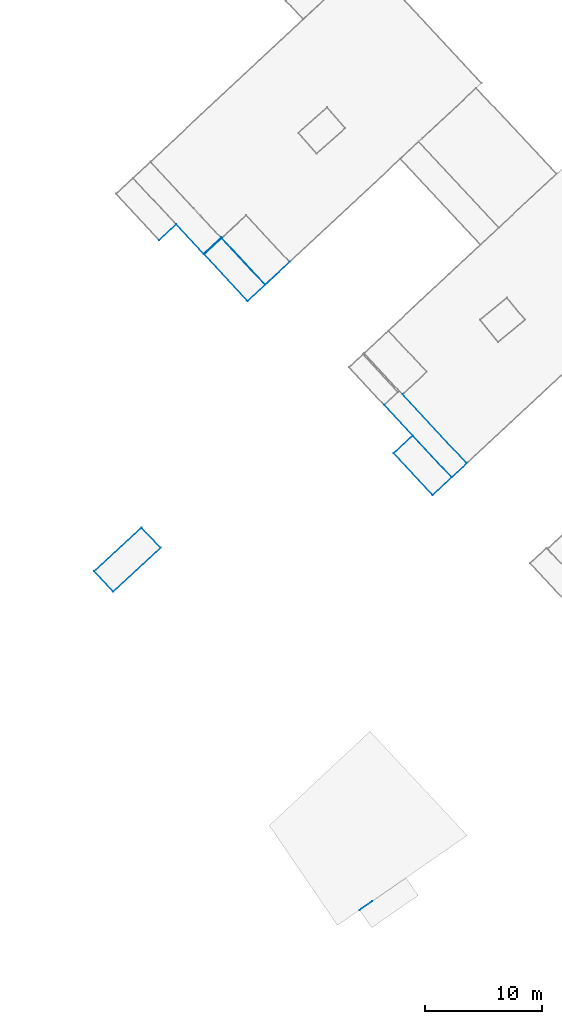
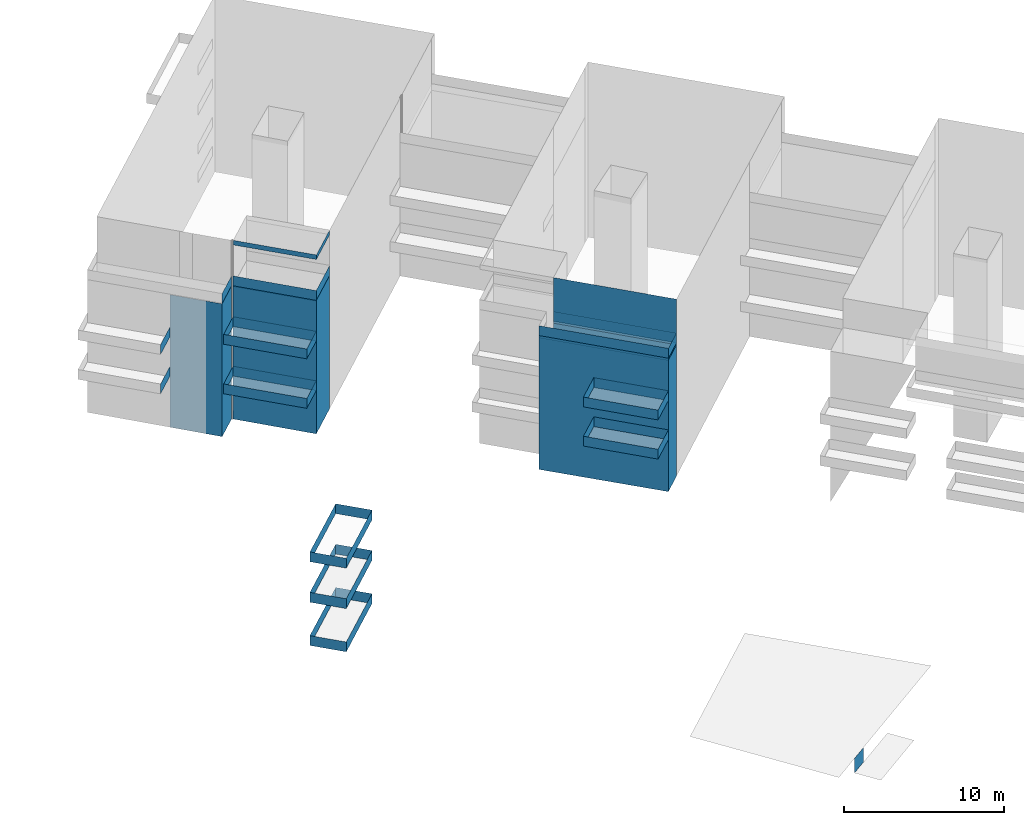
# Not in any storey, part 14 of 136: 89 walls.
"""IFC4 building model written with IfcOpenShell, lengths in metres."""

from ifc_helpers import new_model, entity, si_unit, converted_unit, frame, origin, place, context, subcontext, project, spatial, face_set, surface_model, element, save


model = new_model("IFC4")

# Units and contexts
model_context = context("Model", 3, precision=1e-05, world=origin())
body_context = subcontext(model_context, "Body", "Model", "MODEL_VIEW")
ifc_project = project(units=[converted_unit("PLANEANGLEUNIT", "DEGREE", entity("IfcRatioMeasure", 0.0174532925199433), si_unit("PLANEANGLEUNIT", "RADIAN"), dimensions=[0, 0, 0, 0, 0, 0, 0]), si_unit("AREAUNIT", "SQUARE_METRE"), si_unit("LENGTHUNIT", "METRE")], contexts=[model_context])

# Site, building
site_placement = place(None, origin())
site = spatial("IfcSite", under=ifc_project, at=site_placement, Name="_site")
building_1_placement = place(site_placement, origin())
building_1 = spatial("IfcBuilding", under=site, at=building_1_placement, Name="_building")

# Walls
wall_1_placement = place(building_1_placement, origin())
element("IfcWall", 1, at=wall_1_placement, inside=building_1, Name="Wall", PredefinedType="NOTDEFINED", context=body_context, shape_type="SurfaceModel", body=[
    surface_model("IfcFaceBasedSurfaceModel", [(108.5, -7.54, 45.01), (107.05, -8.89, 45.01), (107.05, -8.89, 45.76), (108.5, -7.54, 45.76)], [face_set([[[0, 1, 2, 3]]])]),
])
wall_2_placement = place(building_1_placement, origin())
element("IfcWall", 2, at=wall_2_placement, inside=building_1, Name="Wall", PredefinedType="NOTDEFINED", context=body_context, shape_type="SurfaceModel", body=[
    surface_model("IfcFaceBasedSurfaceModel", [(127.08, -27.09, 45.03), (128.7, -25.58, 45.03), (128.7, -25.58, 45.78), (127.08, -27.09, 45.78)], [face_set([[[0, 1, 2, 3]]])]),
])
wall_3_placement = place(building_1_placement, origin())
element("IfcWall", 3, at=wall_3_placement, inside=building_1, Name="Wall", PredefinedType="NOTDEFINED", context=body_context, shape_type="SurfaceModel", body=[
    surface_model("IfcFaceBasedSurfaceModel", [(130.41, -30.66, 45.03), (127.08, -27.09, 45.03), (127.08, -27.09, 45.78), (130.41, -30.66, 45.78)], [face_set([[[0, 1, 2, 3]]])]),
])
wall_4_placement = place(building_1_placement, origin())
element("IfcWall", 4, at=wall_4_placement, inside=building_1, Name="Wall", PredefinedType="NOTDEFINED", context=body_context, shape_type="SurfaceModel", body=[
    surface_model("IfcFaceBasedSurfaceModel", [(108.5, -7.54, 45.01), (107.05, -8.89, 45.01), (107.05, -8.89, 45.76), (108.5, -7.54, 45.76)], [face_set([[[0, 1, 2, 3]]])]),
])
wall_5_placement = place(building_1_placement, origin())
element("IfcWall", 5, at=wall_5_placement, inside=building_1, Name="Wall", PredefinedType="NOTDEFINED", context=body_context, shape_type="SurfaceModel", body=[
    surface_model("IfcFaceBasedSurfaceModel", [(132.03, -29.149, 45.03), (130.41, -30.66, 45.03), (130.41, -30.66, 45.78), (132.03, -29.149, 45.78)], [face_set([[[0, 1, 2, 3]]])]),
])
wall_6_placement = place(building_1_placement, origin())
element("IfcWall", 6, at=wall_6_placement, inside=building_1, Name="Wall", PredefinedType="NOTDEFINED", context=body_context, shape_type="SurfaceModel", body=[
    surface_model("IfcFaceBasedSurfaceModel", [(127.08, -27.09, 45.03), (128.7, -25.58, 45.03), (128.7, -25.58, 45.78), (127.08, -27.09, 45.78)], [face_set([[[0, 1, 2, 3]]])]),
])
wall_7_placement = place(building_1_placement, origin())
element("IfcWall", 7, at=wall_7_placement, inside=building_1, Name="Wall", PredefinedType="NOTDEFINED", context=body_context, shape_type="SurfaceModel", body=[
    surface_model("IfcFaceBasedSurfaceModel", [(130.41, -30.66, 45.03), (127.08, -27.09, 45.03), (127.08, -27.09, 45.78), (130.41, -30.66, 45.78)], [face_set([[[0, 1, 2, 3]]])]),
])
wall_8_placement = place(building_1_placement, origin())
element("IfcWall", 8, at=wall_8_placement, inside=building_1, Name="Wall", PredefinedType="NOTDEFINED", context=body_context, shape_type="SurfaceModel", body=[
    surface_model("IfcFaceBasedSurfaceModel", [(132.03, -29.149, 45.03), (130.41, -30.66, 45.03), (130.41, -30.66, 45.78), (132.03, -29.149, 45.78)], [face_set([[[0, 1, 2, 3]]])]),
])
wall_9_placement = place(building_1_placement, origin())
element("IfcWall", 9, at=wall_9_placement, inside=building_1, Name="Wall", PredefinedType="NOTDEFINED", context=body_context, shape_type="SurfaceModel", body=[
    surface_model("IfcFaceBasedSurfaceModel", [(128.7, -25.58, 45.03), (132.03, -29.149, 45.03), (132.03, -29.149, 45.78), (128.7, -25.58, 45.78)], [face_set([[[0, 1, 2, 3]]])]),
])
for number, where, name in (
    (10, (0.0, 0.0, 0.0), "Wall"),
    (11, (0.0, 0.0, 0.0), "Wall"),
):
    element("IfcWall", number, at=place(building_1_placement, frame(where)), inside=building_1, Name=name, PredefinedType="NOTDEFINED", context=body_context, shape_type="SurfaceModel", body=[
        surface_model("IfcFaceBasedSurfaceModel", [(108.5, -7.54, 42.0), (107.05, -8.89, 42.0), (107.05, -8.89, 42.75), (108.5, -7.54, 42.75)], [face_set([[[0, 1, 2, 3]]])]),
    ])
wall_10_placement = place(building_1_placement, origin())
element("IfcWall", 12, at=wall_10_placement, inside=building_1, Name="Wall", PredefinedType="NOTDEFINED", context=body_context, shape_type="SurfaceModel", body=[
    surface_model("IfcFaceBasedSurfaceModel", [(101.51, -37.17, 45.18), (105.53, -33.43, 45.18), (105.53, -33.43, 45.93), (101.51, -37.17, 45.93)], [face_set([[[0, 1, 2, 3]]])]),
])
wall_11_placement = place(building_1_placement, origin())
element("IfcWall", 13, at=wall_11_placement, inside=building_1, Name="Wall", PredefinedType="NOTDEFINED", context=body_context, shape_type="SurfaceModel", body=[
    surface_model("IfcFaceBasedSurfaceModel", [(103.13, -38.91, 45.18), (101.51, -37.17, 45.18), (101.51, -37.17, 45.93), (103.13, -38.91, 45.93)], [face_set([[[0, 1, 2, 3]]])]),
])
wall_12_placement = place(building_1_placement, origin())
element("IfcWall", 14, at=wall_12_placement, inside=building_1, Name="Wall", PredefinedType="NOTDEFINED", context=body_context, shape_type="SurfaceModel", body=[
    surface_model("IfcFaceBasedSurfaceModel", [(107.15, -35.16, 45.18), (103.13, -38.91, 45.18), (103.13, -38.91, 45.93), (107.15, -35.16, 45.93)], [face_set([[[0, 1, 2, 3]]])]),
])
wall_13_placement = place(building_1_placement, origin())
element("IfcWall", 15, at=wall_13_placement, inside=building_1, Name="Wall", PredefinedType="NOTDEFINED", context=body_context, shape_type="SurfaceModel", body=[
    surface_model("IfcFaceBasedSurfaceModel", [(105.53, -33.43, 45.18), (107.15, -35.16, 45.18), (107.15, -35.16, 45.93), (105.53, -33.43, 45.93)], [face_set([[[0, 1, 2, 3]]])]),
])
wall_14_placement = place(building_1_placement, origin())
element("IfcWall", 16, at=wall_14_placement, inside=building_1, Name="Wall", PredefinedType="NOTDEFINED", context=body_context, shape_type="SurfaceModel", body=[
    surface_model("IfcFaceBasedSurfaceModel", [(101.51, -37.17, 45.18), (105.53, -33.43, 45.18), (105.53, -33.43, 45.93), (101.51, -37.17, 45.93)], [face_set([[[0, 1, 2, 3]]])]),
])
wall_15_placement = place(building_1_placement, origin())
element("IfcWall", 17, at=wall_15_placement, inside=building_1, Name="Wall", PredefinedType="NOTDEFINED", context=body_context, shape_type="SurfaceModel", body=[
    surface_model("IfcFaceBasedSurfaceModel", [(103.13, -38.91, 45.18), (101.51, -37.17, 45.18), (101.51, -37.17, 45.93), (103.13, -38.91, 45.93)], [face_set([[[0, 1, 2, 3]]])]),
])
wall_16_placement = place(building_1_placement, origin())
element("IfcWall", 18, at=wall_16_placement, inside=building_1, Name="Wall", PredefinedType="NOTDEFINED", context=body_context, shape_type="SurfaceModel", body=[
    surface_model("IfcFaceBasedSurfaceModel", [(107.15, -35.16, 45.18), (103.13, -38.91, 45.18), (103.13, -38.91, 45.93), (107.15, -35.16, 45.93)], [face_set([[[0, 1, 2, 3]]])]),
])
wall_17_placement = place(building_1_placement, origin())
element("IfcWall", 19, at=wall_17_placement, inside=building_1, Name="Wall", PredefinedType="NOTDEFINED", context=body_context, shape_type="SurfaceModel", body=[
    surface_model("IfcFaceBasedSurfaceModel", [(105.53, -33.43, 45.18), (107.15, -35.16, 45.18), (107.15, -35.16, 45.93), (105.53, -33.43, 45.93)], [face_set([[[0, 1, 2, 3]]])]),
])
wall_18_placement = place(building_1_placement, origin())
element("IfcWall", 20, at=wall_18_placement, inside=building_1, Name="Wall", PredefinedType="NOTDEFINED", context=body_context, shape_type="SurfaceModel", body=[
    surface_model("IfcFaceBasedSurfaceModel", [(101.51, -37.17, 41.88), (105.53, -33.43, 41.88), (105.53, -33.43, 42.63), (101.51, -37.17, 42.63)], [face_set([[[0, 1, 2, 3]]])]),
])
wall_19_placement = place(building_1_placement, origin())
element("IfcWall", 21, at=wall_19_placement, inside=building_1, Name="Wall", PredefinedType="NOTDEFINED", context=body_context, shape_type="SurfaceModel", body=[
    surface_model("IfcFaceBasedSurfaceModel", [(103.13, -38.91, 41.88), (101.51, -37.17, 41.88), (101.51, -37.17, 42.63), (103.13, -38.91, 42.63)], [face_set([[[0, 1, 2, 3]]])]),
])
wall_20_placement = place(building_1_placement, origin())
element("IfcWall", 22, at=wall_20_placement, inside=building_1, Name="Wall", PredefinedType="NOTDEFINED", context=body_context, shape_type="SurfaceModel", body=[
    surface_model("IfcFaceBasedSurfaceModel", [(107.15, -35.16, 41.88), (103.13, -38.91, 41.88), (103.13, -38.91, 42.63), (107.15, -35.16, 42.63)], [face_set([[[0, 1, 2, 3]]])]),
])
wall_21_placement = place(building_1_placement, origin())
element("IfcWall", 23, at=wall_21_placement, inside=building_1, Name="Wall", PredefinedType="NOTDEFINED", context=body_context, shape_type="SurfaceModel", body=[
    surface_model("IfcFaceBasedSurfaceModel", [(116.09, -12.71, 48.29), (112.38, -8.729, 48.29), (112.38, -8.729, 49.04), (116.09, -12.71, 49.04)], [face_set([[[0, 1, 2, 3]]])]),
])
wall_22_placement = place(building_1_placement, origin())
element("IfcWall", 24, at=wall_22_placement, inside=building_1, Name="Wall", PredefinedType="NOTDEFINED", context=body_context, shape_type="SurfaceModel", body=[
    surface_model("IfcFaceBasedSurfaceModel", [(105.53, -33.43, 41.88), (107.15, -35.16, 41.88), (107.15, -35.16, 42.63), (105.53, -33.43, 42.63)], [face_set([[[0, 1, 2, 3]]])]),
])
wall_23_placement = place(building_1_placement, origin())
element("IfcWall", 25, at=wall_23_placement, inside=building_1, Name="Wall", PredefinedType="NOTDEFINED", context=body_context, shape_type="SurfaceModel", body=[
    surface_model("IfcFaceBasedSurfaceModel", [(101.51, -37.17, 41.88), (105.53, -33.43, 41.88), (105.53, -33.43, 42.63), (101.51, -37.17, 42.63)], [face_set([[[0, 1, 2, 3]]])]),
])
wall_24_placement = place(building_1_placement, origin())
element("IfcWall", 26, at=wall_24_placement, inside=building_1, Name="Wall", PredefinedType="NOTDEFINED", context=body_context, shape_type="SurfaceModel", body=[
    surface_model("IfcFaceBasedSurfaceModel", [(118.19, -10.75, 48.29), (116.09, -12.71, 48.29), (116.09, -12.71, 49.04), (118.19, -10.75, 49.04)], [face_set([[[0, 1, 2, 3]]])]),
])
wall_25_placement = place(building_1_placement, origin())
element("IfcWall", 27, at=wall_25_placement, inside=building_1, Name="Wall", PredefinedType="NOTDEFINED", context=body_context, shape_type="SurfaceModel", body=[
    surface_model("IfcFaceBasedSurfaceModel", [(103.13, -38.91, 41.88), (101.51, -37.17, 41.88), (101.51, -37.17, 42.63), (103.13, -38.91, 42.63)], [face_set([[[0, 1, 2, 3]]])]),
])
wall_26_placement = place(building_1_placement, origin())
element("IfcWall", 28, at=wall_26_placement, inside=building_1, Name="Wall", PredefinedType="NOTDEFINED", context=body_context, shape_type="SurfaceModel", body=[
    surface_model("IfcFaceBasedSurfaceModel", [(107.15, -35.16, 41.88), (103.13, -38.91, 41.88), (103.13, -38.91, 42.63), (107.15, -35.16, 42.63)], [face_set([[[0, 1, 2, 3]]])]),
])
wall_27_placement = place(building_1_placement, origin())
element("IfcWall", 29, at=wall_27_placement, inside=building_1, Name="Wall", PredefinedType="NOTDEFINED", context=body_context, shape_type="SurfaceModel", body=[
    surface_model("IfcFaceBasedSurfaceModel", [(105.53, -33.43, 41.88), (107.15, -35.16, 41.88), (107.15, -35.16, 42.63), (105.53, -33.43, 42.63)], [face_set([[[0, 1, 2, 3]]])]),
])
wall_28_placement = place(building_1_placement, origin())
element("IfcWall", 30, at=wall_28_placement, inside=building_1, Name="Wall", PredefinedType="NOTDEFINED", context=body_context, shape_type="SurfaceModel", body=[
    surface_model("IfcFaceBasedSurfaceModel", [(116.09, -12.71, 48.29), (112.38, -8.729, 48.29), (112.38, -8.729, 49.04), (116.09, -12.71, 49.04)], [face_set([[[0, 1, 2, 3]]])]),
])
wall_29_placement = place(building_1_placement, origin())
element("IfcWall", 31, at=wall_29_placement, inside=building_1, Name="Wall", PredefinedType="NOTDEFINED", context=body_context, shape_type="SurfaceModel", body=[
    surface_model("IfcFaceBasedSurfaceModel", [(118.19, -10.75, 48.29), (116.09, -12.71, 48.29), (116.09, -12.71, 49.04), (118.19, -10.75, 49.04)], [face_set([[[0, 1, 2, 3]]])]),
])
wall_30_placement = place(building_1_placement, origin())
element("IfcWall", 32, at=wall_30_placement, inside=building_1, Name="Wall", PredefinedType="NOTDEFINED", context=body_context, shape_type="SurfaceModel", body=[
    surface_model("IfcFaceBasedSurfaceModel", [(110.9, -10.11, 45.18), (112.38, -8.729, 45.18), (112.38, -8.729, 45.93), (110.9, -10.11, 45.93)], [face_set([[[0, 1, 2, 3]]])]),
])
wall_31_placement = place(building_1_placement, origin())
element("IfcWall", 33, at=wall_31_placement, inside=building_1, Name="Wall", PredefinedType="NOTDEFINED", context=body_context, shape_type="SurfaceModel", body=[
    surface_model("IfcFaceBasedSurfaceModel", [(114.61, -14.09, 45.18), (110.9, -10.11, 45.18), (110.9, -10.11, 45.93), (114.61, -14.09, 45.93)], [face_set([[[0, 1, 2, 3]]])]),
])
wall_32_placement = place(building_1_placement, origin())
element("IfcWall", 34, at=wall_32_placement, inside=building_1, Name="Wall", PredefinedType="NOTDEFINED", context=body_context, shape_type="SurfaceModel", body=[
    surface_model("IfcFaceBasedSurfaceModel", [(116.09, -12.71, 45.18), (114.61, -14.09, 45.18), (114.61, -14.09, 45.93), (116.09, -12.71, 45.93)], [face_set([[[0, 1, 2, 3]]])]),
])
wall_33_placement = place(building_1_placement, origin())
element("IfcWall", 35, at=wall_33_placement, inside=building_1, Name="Wall", PredefinedType="NOTDEFINED", context=body_context, shape_type="SurfaceModel", body=[
    surface_model("IfcFaceBasedSurfaceModel", [(110.9, -10.11, 45.18), (112.38, -8.729, 45.18), (112.38, -8.729, 45.93), (110.9, -10.11, 45.93)], [face_set([[[0, 1, 2, 3]]])]),
])
wall_34_placement = place(building_1_placement, origin())
element("IfcWall", 36, at=wall_34_placement, inside=building_1, Name="Wall", PredefinedType="NOTDEFINED", context=body_context, shape_type="SurfaceModel", body=[
    surface_model("IfcFaceBasedSurfaceModel", [(114.61, -14.09, 45.18), (110.9, -10.11, 45.18), (110.9, -10.11, 45.93), (114.61, -14.09, 45.93)], [face_set([[[0, 1, 2, 3]]])]),
])
wall_35_placement = place(building_1_placement, origin())
element("IfcWall", 37, at=wall_35_placement, inside=building_1, Name="Wall", PredefinedType="NOTDEFINED", context=body_context, shape_type="SurfaceModel", body=[
    surface_model("IfcFaceBasedSurfaceModel", [(116.09, -12.71, 45.18), (114.61, -14.09, 45.18), (114.61, -14.09, 45.93), (116.09, -12.71, 45.93)], [face_set([[[0, 1, 2, 3]]])]),
])
wall_36_placement = place(building_1_placement, origin())
element("IfcWall", 38, at=wall_36_placement, inside=building_1, Name="Wall", PredefinedType="NOTDEFINED", context=body_context, shape_type="SurfaceModel", body=[
    surface_model("IfcFaceBasedSurfaceModel", [(112.38, -8.729, 45.18), (116.09, -12.71, 45.18), (116.09, -12.71, 45.93), (112.38, -8.729, 45.93)], [face_set([[[0, 1, 2, 3]]])]),
])
wall_37_placement = place(building_1_placement, origin())
element("IfcWall", 39, at=wall_37_placement, inside=building_1, Name="Wall", PredefinedType="NOTDEFINED", context=body_context, shape_type="SurfaceModel", body=[
    surface_model("IfcFaceBasedSurfaceModel", [(101.51, -37.17, 48.27), (105.53, -33.43, 48.27), (105.53, -33.43, 49.02), (101.51, -37.17, 49.02)], [face_set([[[0, 1, 2, 3]]])]),
])
wall_38_placement = place(building_1_placement, origin())
element("IfcWall", 40, at=wall_38_placement, inside=building_1, Name="Wall", PredefinedType="NOTDEFINED", context=body_context, shape_type="SurfaceModel", body=[
    surface_model("IfcFaceBasedSurfaceModel", [(103.13, -38.91, 48.27), (101.51, -37.17, 48.27), (101.51, -37.17, 49.02), (103.13, -38.91, 49.02)], [face_set([[[0, 1, 2, 3]]])]),
])
wall_39_placement = place(building_1_placement, origin())
element("IfcWall", 41, at=wall_39_placement, inside=building_1, Name="Wall", PredefinedType="NOTDEFINED", context=body_context, shape_type="SurfaceModel", body=[
    surface_model("IfcFaceBasedSurfaceModel", [(107.15, -35.16, 48.27), (103.13, -38.91, 48.27), (103.13, -38.91, 49.02), (107.15, -35.16, 49.02)], [face_set([[[0, 1, 2, 3]]])]),
])
wall_40_placement = place(building_1_placement, origin())
element("IfcWall", 42, at=wall_40_placement, inside=building_1, Name="Wall", PredefinedType="NOTDEFINED", context=body_context, shape_type="SurfaceModel", body=[
    surface_model("IfcFaceBasedSurfaceModel", [(105.53, -33.43, 48.27), (107.15, -35.16, 48.27), (107.15, -35.16, 49.02), (105.53, -33.43, 49.02)], [face_set([[[0, 1, 2, 3]]])]),
])
wall_41_placement = place(building_1_placement, origin())
element("IfcWall", 43, at=wall_41_placement, inside=building_1, Name="Wall", PredefinedType="NOTDEFINED", context=body_context, shape_type="SurfaceModel", body=[
    surface_model("IfcFaceBasedSurfaceModel", [(101.51, -37.17, 48.27), (105.53, -33.43, 48.27), (105.53, -33.43, 49.02), (101.51, -37.17, 49.02)], [face_set([[[0, 1, 2, 3]]])]),
])
wall_42_placement = place(building_1_placement, origin())
element("IfcWall", 44, at=wall_42_placement, inside=building_1, Name="Wall", PredefinedType="NOTDEFINED", context=body_context, shape_type="SurfaceModel", body=[
    surface_model("IfcFaceBasedSurfaceModel", [(103.13, -38.91, 48.27), (101.51, -37.17, 48.27), (101.51, -37.17, 49.02), (103.13, -38.91, 49.02)], [face_set([[[0, 1, 2, 3]]])]),
])
wall_43_placement = place(building_1_placement, origin())
element("IfcWall", 45, at=wall_43_placement, inside=building_1, Name="Wall", PredefinedType="NOTDEFINED", context=body_context, shape_type="SurfaceModel", body=[
    surface_model("IfcFaceBasedSurfaceModel", [(107.15, -35.16, 48.27), (103.13, -38.91, 48.27), (103.13, -38.91, 49.02), (107.15, -35.16, 49.02)], [face_set([[[0, 1, 2, 3]]])]),
])
wall_44_placement = place(building_1_placement, origin())
element("IfcWall", 46, at=wall_44_placement, inside=building_1, Name="Wall", PredefinedType="NOTDEFINED", context=body_context, shape_type="SurfaceModel", body=[
    surface_model("IfcFaceBasedSurfaceModel", [(105.53, -33.43, 48.27), (107.15, -35.16, 48.27), (107.15, -35.16, 49.02), (105.53, -33.43, 49.02)], [face_set([[[0, 1, 2, 3]]])]),
])
wall_45_placement = place(building_1_placement, origin())
element("IfcWall", 47, at=wall_45_placement, inside=building_1, Name="Wall", PredefinedType="NOTDEFINED", context=body_context, shape_type="SurfaceModel", body=[
    surface_model("IfcFaceBasedSurfaceModel", [(127.08, -27.09, 42.04), (128.7, -25.58, 42.04), (128.7, -25.58, 42.79), (127.08, -27.09, 42.79)], [face_set([[[0, 1, 2, 3]]])]),
])
wall_46_placement = place(building_1_placement, origin())
element("IfcWall", 48, at=wall_46_placement, inside=building_1, Name="Wall", PredefinedType="NOTDEFINED", context=body_context, shape_type="SurfaceModel", body=[
    surface_model("IfcFaceBasedSurfaceModel", [(130.41, -30.66, 42.04), (127.08, -27.09, 42.04), (127.08, -27.09, 42.79), (130.41, -30.66, 42.79)], [face_set([[[0, 1, 2, 3]]])]),
])
wall_47_placement = place(building_1_placement, origin())
element("IfcWall", 49, at=wall_47_placement, inside=building_1, Name="Wall", PredefinedType="NOTDEFINED", context=body_context, shape_type="SurfaceModel", body=[
    surface_model("IfcFaceBasedSurfaceModel", [(132.03, -29.149, 42.04), (130.41, -30.66, 42.04), (130.41, -30.66, 42.79), (132.03, -29.149, 42.79)], [face_set([[[0, 1, 2, 3]]])]),
])
wall_48_placement = place(building_1_placement, origin())
element("IfcWall", 50, at=wall_48_placement, inside=building_1, Name="Wall", PredefinedType="NOTDEFINED", context=body_context, shape_type="SurfaceModel", body=[
    surface_model("IfcFaceBasedSurfaceModel", [(127.08, -27.09, 42.04), (128.7, -25.58, 42.04), (128.7, -25.58, 42.79), (127.08, -27.09, 42.79)], [face_set([[[0, 1, 2, 3]]])]),
])
wall_49_placement = place(building_1_placement, origin())
element("IfcWall", 51, at=wall_49_placement, inside=building_1, Name="Wall", PredefinedType="NOTDEFINED", context=body_context, shape_type="SurfaceModel", body=[
    surface_model("IfcFaceBasedSurfaceModel", [(130.41, -30.66, 42.04), (127.08, -27.09, 42.04), (127.08, -27.09, 42.79), (130.41, -30.66, 42.79)], [face_set([[[0, 1, 2, 3]]])]),
])
wall_50_placement = place(building_1_placement, origin())
element("IfcWall", 52, at=wall_50_placement, inside=building_1, Name="Wall", PredefinedType="NOTDEFINED", context=body_context, shape_type="SurfaceModel", body=[
    surface_model("IfcFaceBasedSurfaceModel", [(132.03, -29.149, 42.04), (130.41, -30.66, 42.04), (130.41, -30.66, 42.79), (132.03, -29.149, 42.79)], [face_set([[[0, 1, 2, 3]]])]),
])
wall_51_placement = place(building_1_placement, origin())
element("IfcWall", 53, at=wall_51_placement, inside=building_1, Name="Wall", PredefinedType="NOTDEFINED", context=body_context, shape_type="SurfaceModel", body=[
    surface_model("IfcFaceBasedSurfaceModel", [(128.7, -25.58, 42.04), (132.03, -29.149, 42.04), (132.03, -29.149, 42.79), (128.7, -25.58, 42.79)], [face_set([[[0, 1, 2, 3]]])]),
])
wall_52_placement = place(building_1_placement, origin())
element("IfcWall", 54, at=wall_52_placement, inside=building_1, Name="Wall", PredefinedType="NOTDEFINED", context=body_context, shape_type="SurfaceModel", body=[
    surface_model("IfcFaceBasedSurfaceModel", [(116.09, -12.71, 48.29), (112.38, -8.729, 48.29), (112.38, -8.729, 38.12), (116.09, -12.71, 38.097)], [face_set([[[0, 1, 2, 3]]])]),
])
wall_53_placement = place(building_1_placement, origin())
element("IfcWall", 55, at=wall_53_placement, inside=building_1, Name="Wall", PredefinedType="NOTDEFINED", context=body_context, shape_type="SurfaceModel", body=[
    surface_model("IfcFaceBasedSurfaceModel", [(112.32, -8.66, 48.29), (110.83, -10.05, 48.29), (110.83, -10.05, 38.115), (112.32, -8.66, 38.121)], [face_set([[[0, 1, 2, 3]]])]),
])
wall_54_placement = place(building_1_placement, origin())
element("IfcWall", 56, at=wall_54_placement, inside=building_1, Name="Wall", PredefinedType="NOTDEFINED", context=body_context, shape_type="SurfaceModel", body=[
    surface_model("IfcFaceBasedSurfaceModel", [(132.03, -29.149, 48.26), (126.26, -22.96, 48.26), (126.26, -22.96, 38.037), (132.03, -29.149, 38.074)], [face_set([[[0, 1, 2, 3]]])]),
])
wall_55_placement = place(building_1_placement, origin())
element("IfcWall", 57, at=wall_55_placement, inside=building_1, Name="Wall", PredefinedType="NOTDEFINED", context=body_context, shape_type="SurfaceModel", body=[
    surface_model("IfcFaceBasedSurfaceModel", [(133.31, -27.95, 48.26), (132.03, -29.149, 48.26), (132.03, -29.149, 38.074), (133.31, -27.95, 38.092)], [face_set([[[0, 1, 2, 3]]])]),
])
wall_56_placement = place(building_1_placement, origin())
element("IfcWall", 58, at=wall_56_placement, inside=building_1, Name="Wall", PredefinedType="NOTDEFINED", context=body_context, shape_type="SurfaceModel", body=[
    surface_model("IfcFaceBasedSurfaceModel", [(118.19, -10.75, 48.29), (116.09, -12.71, 48.29), (116.09, -12.71, 38.097), (118.19, -10.75, 38.104)], [face_set([[[0, 1, 2, 3]]])]),
])
wall_57_placement = place(building_1_placement, origin())
element("IfcWall", 59, at=wall_57_placement, inside=building_1, Name="Wall", PredefinedType="NOTDEFINED", context=body_context, shape_type="SurfaceModel", body=[
    surface_model("IfcFaceBasedSurfaceModel", [(132.03, -29.149, 48.11), (126.26, -22.96, 48.11), (126.26, -22.96, 38.037), (132.03, -29.149, 38.074)], [face_set([[[0, 1, 2, 3]]])]),
])
wall_58_placement = place(building_1_placement, origin())
element("IfcWall", 60, at=wall_58_placement, inside=building_1, Name="Wall", PredefinedType="NOTDEFINED", context=body_context, shape_type="SurfaceModel", body=[
    surface_model("IfcFaceBasedSurfaceModel", [(133.31, -27.95, 48.11), (132.03, -29.149, 48.11), (132.03, -29.149, 38.074), (133.31, -27.95, 38.092)], [face_set([[[0, 1, 2, 3]]])]),
])
wall_59_placement = place(building_1_placement, origin())
element("IfcWall", 61, at=wall_59_placement, inside=building_1, Name="Wall", PredefinedType="NOTDEFINED", context=body_context, shape_type="SurfaceModel", body=[
    surface_model("IfcFaceBasedSurfaceModel", [(116.09, -12.71, 48.25), (112.38, -8.729, 48.25), (112.38, -8.729, 38.12), (116.09, -12.71, 38.097)], [face_set([[[0, 1, 2, 3]]])]),
])
wall_60_placement = place(building_1_placement, origin())
element("IfcWall", 62, at=wall_60_placement, inside=building_1, Name="Wall", PredefinedType="NOTDEFINED", context=body_context, shape_type="SurfaceModel", body=[
    surface_model("IfcFaceBasedSurfaceModel", [(118.19, -10.75, 48.25), (116.09, -12.71, 48.25), (116.09, -12.71, 38.097), (118.19, -10.75, 38.104)], [face_set([[[0, 1, 2, 3]]])]),
])
wall_61_placement = place(building_1_placement, origin())
element("IfcWall", 63, at=wall_61_placement, inside=building_1, Name="Wall", PredefinedType="NOTDEFINED", context=body_context, shape_type="SurfaceModel", body=[
    surface_model("IfcFaceBasedSurfaceModel", [(110.83, -10.05, 48.25), (108.5, -7.54, 48.25), (108.5, -7.54, 38.131), (110.83, -10.05, 38.115)], [face_set([[[0, 1, 2, 3]]])]),
])
wall_62_placement = place(building_1_placement, origin())
element("IfcWall", 64, at=wall_62_placement, inside=building_1, Name="Wall", PredefinedType="NOTDEFINED", context=body_context, shape_type="SurfaceModel", body=[
    surface_model("IfcFaceBasedSurfaceModel", [(112.32, -8.66, 48.25), (110.83, -10.05, 48.25), (110.83, -10.05, 38.115), (112.32, -8.66, 38.121)], [face_set([[[0, 1, 2, 3]]])]),
])
wall_63_placement = place(building_1_placement, origin())
element("IfcWall", 65, at=wall_63_placement, inside=building_1, Name="Wall", PredefinedType="NOTDEFINED", context=body_context, shape_type="SurfaceModel", body=[
    surface_model("IfcFaceBasedSurfaceModel", [(110.9, -10.11, 41.4), (112.38, -8.729, 41.4), (112.38, -8.729, 42.15), (110.9, -10.11, 42.15)], [face_set([[[0, 1, 2, 3]]])]),
])
wall_64_placement = place(building_1_placement, origin())
element("IfcWall", 66, at=wall_64_placement, inside=building_1, Name="Wall", PredefinedType="NOTDEFINED", context=body_context, shape_type="SurfaceModel", body=[
    surface_model("IfcFaceBasedSurfaceModel", [(114.61, -14.09, 41.4), (110.9, -10.11, 41.4), (110.9, -10.11, 42.15), (114.61, -14.09, 42.15)], [face_set([[[0, 1, 2, 3]]])]),
])
wall_65_placement = place(building_1_placement, origin())
element("IfcWall", 67, at=wall_65_placement, inside=building_1, Name="Wall", PredefinedType="NOTDEFINED", context=body_context, shape_type="SurfaceModel", body=[
    surface_model("IfcFaceBasedSurfaceModel", [(116.09, -12.71, 41.4), (114.61, -14.09, 41.4), (114.61, -14.09, 42.15), (116.09, -12.71, 42.15)], [face_set([[[0, 1, 2, 3]]])]),
])
wall_66_placement = place(building_1_placement, origin())
element("IfcWall", 68, at=wall_66_placement, inside=building_1, Name="Wall", PredefinedType="NOTDEFINED", context=body_context, shape_type="SurfaceModel", body=[
    surface_model("IfcFaceBasedSurfaceModel", [(110.9, -10.11, 41.4), (112.38, -8.729, 41.4), (112.38, -8.729, 42.15), (110.9, -10.11, 42.15)], [face_set([[[0, 1, 2, 3]]])]),
])
wall_67_placement = place(building_1_placement, origin())
element("IfcWall", 69, at=wall_67_placement, inside=building_1, Name="Wall", PredefinedType="NOTDEFINED", context=body_context, shape_type="SurfaceModel", body=[
    surface_model("IfcFaceBasedSurfaceModel", [(114.61, -14.09, 41.4), (110.9, -10.11, 41.4), (110.9, -10.11, 42.15), (114.61, -14.09, 42.15)], [face_set([[[0, 1, 2, 3]]])]),
])
wall_68_placement = place(building_1_placement, origin())
element("IfcWall", 70, at=wall_68_placement, inside=building_1, Name="Wall", PredefinedType="NOTDEFINED", context=body_context, shape_type="SurfaceModel", body=[
    surface_model("IfcFaceBasedSurfaceModel", [(116.09, -12.71, 41.4), (114.61, -14.09, 41.4), (114.61, -14.09, 42.15), (116.09, -12.71, 42.15)], [face_set([[[0, 1, 2, 3]]])]),
])
wall_69_placement = place(building_1_placement, origin())
element("IfcWall", 71, at=wall_69_placement, inside=building_1, Name="Wall", PredefinedType="NOTDEFINED", context=body_context, shape_type="SurfaceModel", body=[
    surface_model("IfcFaceBasedSurfaceModel", [(112.38, -8.729, 41.4), (116.09, -12.71, 41.4), (116.09, -12.71, 42.15), (112.38, -8.729, 42.15)], [face_set([[[0, 1, 2, 3]]])]),
])
wall_70_placement = place(building_1_placement, origin())
element("IfcWall", 72, at=wall_70_placement, inside=building_1, Name="Wall", PredefinedType="NOTDEFINED", context=body_context, shape_type="SurfaceModel", body=[
    surface_model("IfcFaceBasedSurfaceModel", [(118.19, -10.75, 51.74), (116.11, -12.689, 51.74), (116.11, -12.689, 51.39), (118.19, -10.75, 51.39)], [face_set([[[0, 1, 2, 3]]])]),
])
for number, where, name in (
    (73, (0.0, 0.0, 0.0), "Wall"),
    (74, (0.0, 0.0, 0.0), "Wall"),
):
    element("IfcWall", number, at=place(building_1_placement, frame(where)), inside=building_1, Name=name, PredefinedType="NOTDEFINED", context=body_context, shape_type="SurfaceModel", body=[
        surface_model("IfcFaceBasedSurfaceModel", [(112.32, -8.66, 48.29), (110.83, -10.05, 48.29), (110.83, -10.05, 49.04), (112.32, -8.66, 49.04)], [face_set([[[0, 1, 2, 3]]])]),
    ])
wall_71_placement = place(building_1_placement, origin())
element("IfcWall", 75, at=wall_71_placement, inside=building_1, Name="Wall", PredefinedType="NOTDEFINED", context=body_context, shape_type="SurfaceModel", body=[
    surface_model("IfcFaceBasedSurfaceModel", [(132.03, -29.149, 48.26), (126.26, -22.96, 48.26), (126.26, -22.96, 49.01), (132.03, -29.149, 49.01)], [face_set([[[0, 1, 2, 3]]])]),
])
wall_72_placement = place(building_1_placement, origin())
element("IfcWall", 76, at=wall_72_placement, inside=building_1, Name="Wall", PredefinedType="NOTDEFINED", context=body_context, shape_type="SurfaceModel", body=[
    surface_model("IfcFaceBasedSurfaceModel", [(133.31, -27.95, 48.26), (132.03, -29.149, 48.26), (132.03, -29.149, 49.01), (133.31, -27.95, 49.01)], [face_set([[[0, 1, 2, 3]]])]),
])
wall_73_placement = place(building_1_placement, origin())
element("IfcWall", 77, at=wall_73_placement, inside=building_1, Name="Wall", PredefinedType="NOTDEFINED", context=body_context, shape_type="SurfaceModel", body=[
    surface_model("IfcFaceBasedSurfaceModel", [(132.03, -29.149, 48.26), (126.26, -22.96, 48.26), (126.26, -22.96, 49.01), (132.03, -29.149, 49.01)], [face_set([[[0, 1, 2, 3]]])]),
])
wall_74_placement = place(building_1_placement, origin())
element("IfcWall", 78, at=wall_74_placement, inside=building_1, Name="Wall", PredefinedType="NOTDEFINED", context=body_context, shape_type="SurfaceModel", body=[
    surface_model("IfcFaceBasedSurfaceModel", [(133.31, -27.95, 48.26), (132.03, -29.149, 48.26), (132.03, -29.149, 49.01), (133.31, -27.95, 49.01)], [face_set([[[0, 1, 2, 3]]])]),
])

# Building
building_2_placement = place(site_placement, origin())
building_2 = spatial("IfcBuilding", under=site, at=building_2_placement, Name="_building")

# Walls
wall_75_placement = place(building_2_placement, origin())
element("IfcWall", 79, at=wall_75_placement, inside=building_2, Name="Wall", PredefinedType="NOTDEFINED", context=body_context, shape_type="SurfaceModel", body=[
    surface_model("IfcFaceBasedSurfaceModel", [(128.7, -25.58, 42.04), (132.03, -29.149, 42.04), (132.03, -29.149, 42.79), (128.7, -25.58, 42.79)], [face_set([[[0, 1, 2, 3]]])]),
])
wall_76_placement = place(building_2_placement, origin())
element("IfcWall", 80, at=wall_76_placement, inside=building_2, Name="Wall", PredefinedType="NOTDEFINED", context=body_context, shape_type="SurfaceModel", body=[
    surface_model("IfcFaceBasedSurfaceModel", [(127.82, -22.06, 48.26), (133.31, -27.95, 48.26), (133.31, -27.95, 38.092), (127.82, -22.06, 38.048)], [face_set([[[0, 1, 2, 3]]])]),
])
wall_77_placement = place(building_2_placement, origin())
element("IfcWall", 81, at=wall_77_placement, inside=building_2, Name="Wall", PredefinedType="NOTDEFINED", context=body_context, shape_type="SurfaceModel", body=[
    surface_model("IfcFaceBasedSurfaceModel", [(133.31, -27.95, 51.59), (127.82, -22.06, 51.59), (127.82, -22.06, 48.11), (133.31, -27.95, 48.11)], [face_set([[[0, 1, 2, 3]]])]),
])
for number, where, name in (
    (82, (0.0, 0.0, 0.0), "Wall"),
    (83, (0.0, 0.0, 0.0), "Wall"),
):
    element("IfcWall", number, at=place(building_2_placement, frame(where)), inside=building_2, Name=name, PredefinedType="NOTDEFINED", context=body_context, shape_type="SurfaceModel", body=[
        surface_model("IfcFaceBasedSurfaceModel", [(127.82, -22.06, 48.26), (133.31, -27.95, 48.26), (133.31, -27.95, 49.01), (127.82, -22.06, 49.01)], [face_set([[[0, 1, 2, 3]]])]),
    ])

# Building
building_3_placement = place(site_placement, origin())
building_3 = spatial("IfcBuilding", under=site, at=building_3_placement, Name="_building")

# Walls
wall_78_placement = place(building_3_placement, origin())
element("IfcWall", 84, at=wall_78_placement, inside=building_3, Name="Wall", PredefinedType="NOTDEFINED", context=body_context, shape_type="SurfaceModel", body=[
    surface_model("IfcFaceBasedSurfaceModel", [(112.38, -8.729, 45.18), (116.09, -12.71, 45.18), (116.09, -12.71, 45.93), (112.38, -8.729, 45.93)], [face_set([[[0, 1, 2, 3]]])]),
])
wall_79_placement = place(building_3_placement, origin())
element("IfcWall", 85, at=wall_79_placement, inside=building_3, Name="Wall", PredefinedType="NOTDEFINED", context=body_context, shape_type="SurfaceModel", body=[
    surface_model("IfcFaceBasedSurfaceModel", [(112.38, -8.729, 41.4), (116.09, -12.71, 41.4), (116.09, -12.71, 42.15), (112.38, -8.729, 42.15)], [face_set([[[0, 1, 2, 3]]])]),
])
for number, where, name in (
    (86, (0.0, 0.0, 0.0), "Wall"),
    (87, (0.0, 0.0, 0.0), "Wall"),
):
    element("IfcWall", number, at=place(building_3_placement, frame(where)), inside=building_3, Name=name, PredefinedType="NOTDEFINED", context=body_context, shape_type="SurfaceModel", body=[
        surface_model("IfcFaceBasedSurfaceModel", [(116.11, -12.689, 51.74), (112.4, -8.71, 51.74), (112.4, -8.71, 51.39), (116.11, -12.689, 51.39)], [face_set([[[0, 1, 2, 3]]])]),
    ])
wall_80_placement = place(building_3_placement, origin())
element("IfcWall", 88, at=wall_80_placement, inside=building_3, Name="Wall", PredefinedType="NOTDEFINED", context=body_context, shape_type="SurfaceModel", body=[
    surface_model("IfcFaceBasedSurfaceModel", [(118.19, -10.75, 51.74), (116.11, -12.689, 51.74), (116.11, -12.689, 51.39), (118.19, -10.75, 51.39)], [face_set([[[0, 1, 2, 3]]])]),
])

# Building
building_4_placement = place(site_placement, origin())
building_4 = spatial("IfcBuilding", under=site, at=building_4_placement, Name="_building")

# Wall
wall_81_placement = place(building_4_placement, origin())
element("IfcWall", 89, at=wall_81_placement, inside=building_4, Name="Wall", PredefinedType="NOTDEFINED", context=body_context, shape_type="SurfaceModel", body=[
    surface_model("IfcFaceBasedSurfaceModel", [(125.22, -65.34, 42.86), (124.14, -66.09, 42.86), (124.14, -66.09, 41.75), (125.22, -65.34, 41.75)], [face_set([[[0, 1, 2, 3]]])]),
])

save(model, "model.ifc")
